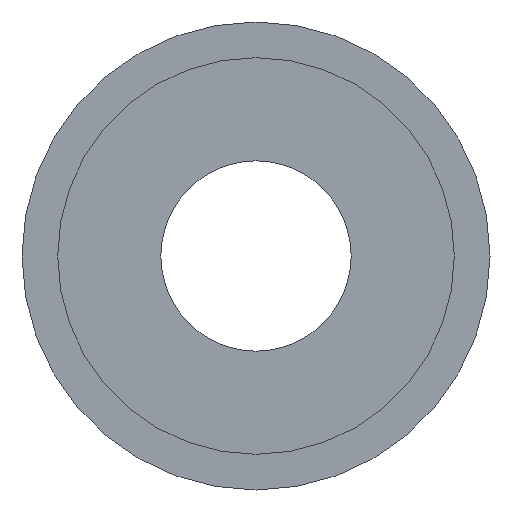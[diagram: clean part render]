
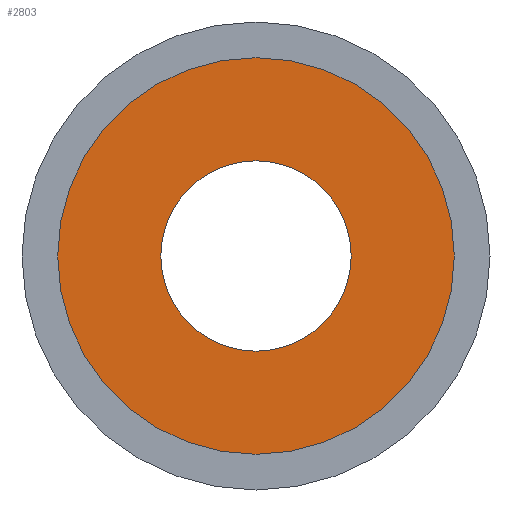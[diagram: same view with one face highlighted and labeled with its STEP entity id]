
A CAD part, front view. The second image highlights one B-rep face of the part: STEP entity #2803.
In plain terms, the highlighted planar face has unit normal (0, -1, 0).
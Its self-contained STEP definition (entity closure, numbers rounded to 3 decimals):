
#2 = DIRECTION ( 'NONE',  ( 0., 0., 1. ) ) ;
#129 = EDGE_CURVE ( 'NONE', #173, #2572, #2267, .T. ) ;
#173 = VERTEX_POINT ( 'NONE', #1531 ) ;
#203 = FACE_OUTER_BOUND ( 'NONE', #1565, .T. ) ;
#241 = VERTEX_POINT ( 'NONE', #2489 ) ;
#245 = FACE_BOUND ( 'NONE', #1679, .T. ) ;
#247 = VERTEX_POINT ( 'NONE', #2469 ) ;
#306 = DIRECTION ( 'NONE',  ( 0., -1., 0. ) ) ;
#403 = DIRECTION ( 'NONE',  ( 0., -1., 0. ) ) ;
#621 = AXIS2_PLACEMENT_3D ( 'NONE', #2456, #1340, #2 ) ;
#640 = CIRCLE ( 'NONE', #2134, 12. ) ;
#1050 = DIRECTION ( 'NONE',  ( 0., 0., -1. ) ) ;
#1139 = PLANE ( 'NONE',  #621 ) ;
#1167 = EDGE_CURVE ( 'NONE', #241, #247, #640, .T. ) ;
#1255 = ORIENTED_EDGE ( 'NONE', *, *, #2354, .T. ) ;
#1288 = ORIENTED_EDGE ( 'NONE', *, *, #2085, .F. ) ;
#1325 = CARTESIAN_POINT ( 'NONE',  ( 0., -14., 0. ) ) ;
#1337 = DIRECTION ( 'NONE',  ( 0., 0., -1. ) ) ;
#1340 = DIRECTION ( 'NONE',  ( 0., 1., 0. ) ) ;
#1531 = CARTESIAN_POINT ( 'NONE',  ( 0., -14., 25. ) ) ;
#1565 = EDGE_LOOP ( 'NONE', ( #1255, #1979 ) ) ;
#1679 = EDGE_LOOP ( 'NONE', ( #1288, #2738 ) ) ;
#1688 = CARTESIAN_POINT ( 'NONE',  ( 0., -14., 0. ) ) ;
#1914 = CARTESIAN_POINT ( 'NONE',  ( 0., -14., -25. ) ) ;
#1916 = DIRECTION ( 'NONE',  ( 0., 0., -1. ) ) ;
#1979 = ORIENTED_EDGE ( 'NONE', *, *, #129, .T. ) ;
#2026 = AXIS2_PLACEMENT_3D ( 'NONE', #2503, #306, #1050 ) ;
#2085 = EDGE_CURVE ( 'NONE', #247, #241, #2615, .T. ) ;
#2093 = AXIS2_PLACEMENT_3D ( 'NONE', #1325, #2876, #1337 ) ;
#2134 = AXIS2_PLACEMENT_3D ( 'NONE', #2842, #403, #2211 ) ;
#2211 = DIRECTION ( 'NONE',  ( 0., 0., -1. ) ) ;
#2267 = CIRCLE ( 'NONE', #2093, 25. ) ;
#2354 = EDGE_CURVE ( 'NONE', #2572, #173, #2442, .T. ) ;
#2442 = CIRCLE ( 'NONE', #2026, 25. ) ;
#2456 = CARTESIAN_POINT ( 'NONE',  ( 0., -14., 12. ) ) ;
#2469 = CARTESIAN_POINT ( 'NONE',  ( 0., -14., -12. ) ) ;
#2489 = CARTESIAN_POINT ( 'NONE',  ( 0., -14., 12. ) ) ;
#2503 = CARTESIAN_POINT ( 'NONE',  ( 0., -14., 0. ) ) ;
#2568 = DIRECTION ( 'NONE',  ( 0., -1., 0. ) ) ;
#2572 = VERTEX_POINT ( 'NONE', #1914 ) ;
#2615 = CIRCLE ( 'NONE', #2818, 12. ) ;
#2738 = ORIENTED_EDGE ( 'NONE', *, *, #1167, .F. ) ;
#2803 = ADVANCED_FACE ( 'NONE', ( #245, #203 ), #1139, .F. ) ;
#2818 = AXIS2_PLACEMENT_3D ( 'NONE', #1688, #2568, #1916 ) ;
#2842 = CARTESIAN_POINT ( 'NONE',  ( 0., -14., 0. ) ) ;
#2876 = DIRECTION ( 'NONE',  ( 0., -1., 0. ) ) ;
